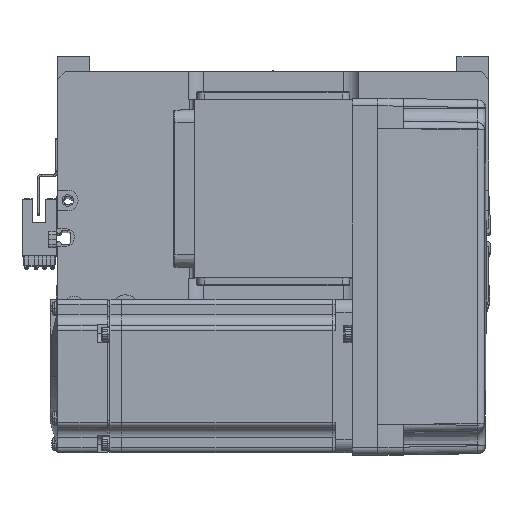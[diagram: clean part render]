
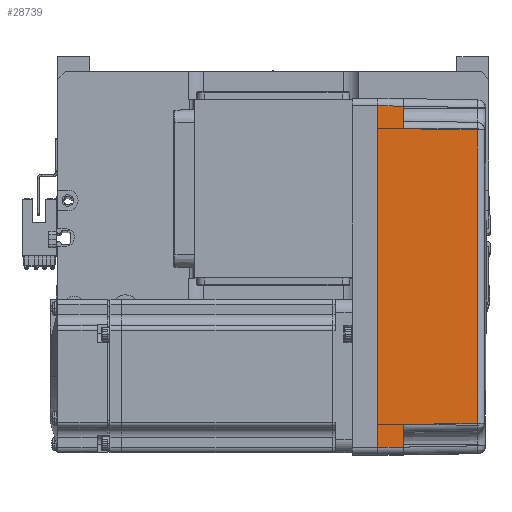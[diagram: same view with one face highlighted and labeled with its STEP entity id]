
A CAD part, top view. The second image highlights one B-rep face of the part: STEP entity #28739.
In plain terms, the highlighted planar face has unit normal (0.018, 0, 1) as drawn and (0, 1, 0.017) by its records, which use the part's own axes.
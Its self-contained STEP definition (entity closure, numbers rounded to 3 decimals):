
#175 = LINE ( 'NONE', #25238, #10583 ) ;
#1376 = DIRECTION ( 'NONE',  ( 0.017, -0.017, 1. ) ) ;
#2506 = CARTESIAN_POINT ( 'NONE',  ( -19.165, 35.316, 39.181 ) ) ;
#2616 = VERTEX_POINT ( 'NONE', #11114 ) ;
#3597 = ORIENTED_EDGE ( 'NONE', *, *, #59229, .T. ) ;
#3930 = VERTEX_POINT ( 'NONE', #52175 ) ;
#4852 = VERTEX_POINT ( 'NONE', #13831 ) ;
#5037 = ORIENTED_EDGE ( 'NONE', *, *, #43297, .T. ) ;
#5355 = CARTESIAN_POINT ( 'NONE',  ( -58., 35.825, 10. ) ) ;
#5395 = CARTESIAN_POINT ( 'NONE',  ( 67.001, 36.001, -0.052 ) ) ;
#6117 = ORIENTED_EDGE ( 'NONE', *, *, #27286, .T. ) ;
#6698 = CARTESIAN_POINT ( 'NONE',  ( -57.495, 35.32, 38.985 ) ) ;
#7353 = DIRECTION ( 'NONE',  ( 0., 1., 0.017 ) ) ;
#8688 = B_SPLINE_CURVE_WITH_KNOTS ( 'NONE', 3,
 ( #6698, #2506, #50239, #35921 ),
 .UNSPECIFIED., .F., .F.,
 ( 4, 4 ),
 ( 0., 1. ),
 .UNSPECIFIED. ) ;
#10583 = VECTOR ( 'NONE', #58479, 1000. ) ;
#11114 = CARTESIAN_POINT ( 'NONE',  ( 58., 35.825, 10. ) ) ;
#12939 = CARTESIAN_POINT ( 'NONE',  ( -67., 36., 0. ) ) ;
#12941 = LINE ( 'NONE', #5355, #52317 ) ;
#13831 = CARTESIAN_POINT ( 'NONE',  ( -58., 35.825, 10. ) ) ;
#14399 = EDGE_CURVE ( 'NONE', #23317, #4852, #26485, .T. ) ;
#14510 = VERTEX_POINT ( 'NONE', #47765 ) ;
#14528 = CARTESIAN_POINT ( 'NONE',  ( -66.826, 35.825, 10. ) ) ;
#14923 = VECTOR ( 'NONE', #29444, 1000. ) ;
#15028 = DIRECTION ( 'NONE',  ( 1., 0., 0. ) ) ;
#15543 = CARTESIAN_POINT ( 'NONE',  ( -67., 36., 0. ) ) ;
#16322 = EDGE_CURVE ( 'NONE', #42970, #3930, #32900, .T. ) ;
#17986 = FACE_OUTER_BOUND ( 'NONE', #21451, .T. ) ;
#19769 = EDGE_CURVE ( 'NONE', #2616, #3930, #21394, .T. ) ;
#21026 = VECTOR ( 'NONE', #29255, 1000. ) ;
#21225 = PLANE ( 'NONE',  #55701 ) ;
#21394 = LINE ( 'NONE', #38638, #54108 ) ;
#21451 = EDGE_LOOP ( 'NONE', ( #5037, #26242, #6117, #3597, #39676, #32613, #34450, #53916 ) ) ;
#22648 = DIRECTION ( 'NONE',  ( 1., 0., 0. ) ) ;
#23317 = VERTEX_POINT ( 'NONE', #14528 ) ;
#24179 = VERTEX_POINT ( 'NONE', #12939 ) ;
#25109 = EDGE_CURVE ( 'NONE', #14510, #2616, #175, .T. ) ;
#25238 = CARTESIAN_POINT ( 'NONE',  ( 57.495, 35.32, 38.985 ) ) ;
#26242 = ORIENTED_EDGE ( 'NONE', *, *, #14399, .T. ) ;
#26485 = LINE ( 'NONE', #55890, #38421 ) ;
#27286 = EDGE_CURVE ( 'NONE', #4852, #31293, #12941, .T. ) ;
#28739 = ADVANCED_FACE ( 'NONE', ( #17986 ), #21225, .T. ) ;
#29255 = DIRECTION ( 'NONE',  ( -0.017, -0.017, 1. ) ) ;
#29444 = DIRECTION ( 'NONE',  ( 1., 0., 0. ) ) ;
#31293 = VERTEX_POINT ( 'NONE', #37324 ) ;
#32613 = ORIENTED_EDGE ( 'NONE', *, *, #19769, .T. ) ;
#32900 = LINE ( 'NONE', #5395, #21026 ) ;
#34450 = ORIENTED_EDGE ( 'NONE', *, *, #16322, .F. ) ;
#35921 = CARTESIAN_POINT ( 'NONE',  ( 57.495, 35.32, 38.985 ) ) ;
#36136 = LINE ( 'NONE', #15543, #45792 ) ;
#37158 = LINE ( 'NONE', #57894, #14923 ) ;
#37324 = CARTESIAN_POINT ( 'NONE',  ( -57.495, 35.32, 38.985 ) ) ;
#38421 = VECTOR ( 'NONE', #22648, 1000. ) ;
#38638 = CARTESIAN_POINT ( 'NONE',  ( 70., 35.825, 10. ) ) ;
#39676 = ORIENTED_EDGE ( 'NONE', *, *, #25109, .T. ) ;
#41267 = CARTESIAN_POINT ( 'NONE',  ( 67., 36., 0. ) ) ;
#42970 = VERTEX_POINT ( 'NONE', #41267 ) ;
#43297 = EDGE_CURVE ( 'NONE', #24179, #23317, #36136, .T. ) ;
#45792 = VECTOR ( 'NONE', #1376, 1000. ) ;
#47765 = CARTESIAN_POINT ( 'NONE',  ( 57.495, 35.32, 38.985 ) ) ;
#48115 = DIRECTION ( 'NONE',  ( 0.017, -0.017, 1. ) ) ;
#50239 = CARTESIAN_POINT ( 'NONE',  ( 19.165, 35.316, 39.181 ) ) ;
#52175 = CARTESIAN_POINT ( 'NONE',  ( 66.826, 35.825, 10. ) ) ;
#52317 = VECTOR ( 'NONE', #48115, 1000. ) ;
#53916 = ORIENTED_EDGE ( 'NONE', *, *, #56594, .F. ) ;
#54108 = VECTOR ( 'NONE', #15028, 1000. ) ;
#55701 = AXIS2_PLACEMENT_3D ( 'NONE', #59222, #7353, #59013 ) ;
#55890 = CARTESIAN_POINT ( 'NONE',  ( 70., 35.825, 10. ) ) ;
#56594 = EDGE_CURVE ( 'NONE', #24179, #42970, #37158, .T. ) ;
#57894 = CARTESIAN_POINT ( 'NONE',  ( 0., 36., 0. ) ) ;
#58479 = DIRECTION ( 'NONE',  ( 0.017, 0.017, -1. ) ) ;
#59013 = DIRECTION ( 'NONE',  ( 0., -0.017, 1. ) ) ;
#59222 = CARTESIAN_POINT ( 'NONE',  ( 70., 36., 0. ) ) ;
#59229 = EDGE_CURVE ( 'NONE', #31293, #14510, #8688, .T. ) ;
